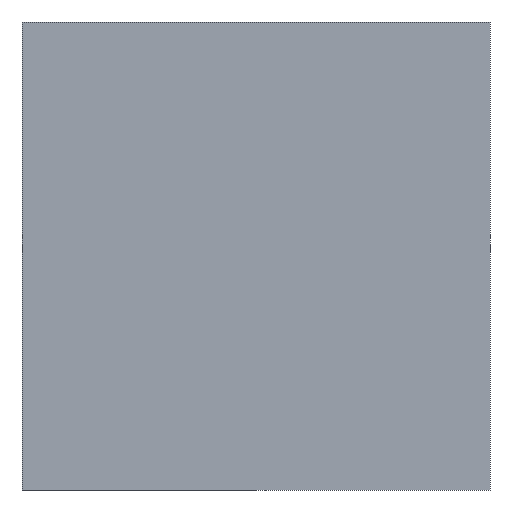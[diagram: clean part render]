
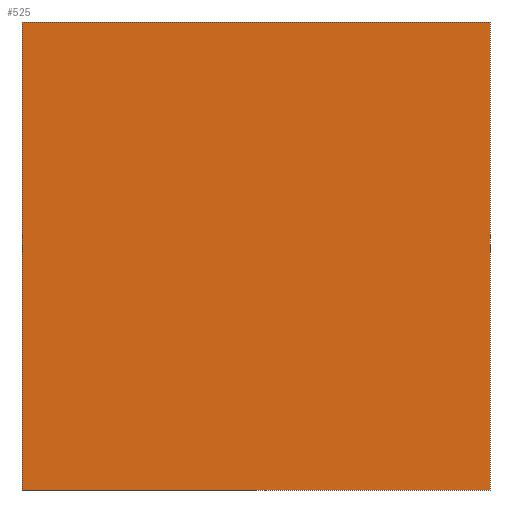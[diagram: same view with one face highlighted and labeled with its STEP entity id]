
A CAD part, left-side view. The second image highlights one B-rep face of the part: STEP entity #525.
In plain terms, the highlighted planar face has unit normal (-1, 0, 0).
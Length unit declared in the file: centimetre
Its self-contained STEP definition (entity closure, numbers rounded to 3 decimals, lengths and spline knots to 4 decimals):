
#1 = CARTESIAN_POINT ( 'NONE',  ( 0., 1000., 0. ) ) ;
#17 = LINE ( 'NONE', #343, #477 ) ;
#37 = CARTESIAN_POINT ( 'NONE',  ( 0., 1000., 1000. ) ) ;
#43 = DIRECTION ( 'NONE',  ( 0., -1., 0. ) ) ;
#67 = VECTOR ( 'NONE', #119, 100. ) ;
#84 = ORIENTED_EDGE ( 'NONE', *, *, #520, .T. ) ;
#89 = CARTESIAN_POINT ( 'NONE',  ( 0., 1000., 1000. ) ) ;
#93 = VECTOR ( 'NONE', #397, 100. ) ;
#103 = DIRECTION ( 'NONE',  ( 0., 0., -1. ) ) ;
#110 = CARTESIAN_POINT ( 'NONE',  ( 0., 1000., 1000. ) ) ;
#119 = DIRECTION ( 'NONE',  ( 0., -1., 0. ) ) ;
#141 = ORIENTED_EDGE ( 'NONE', *, *, #237, .T. ) ;
#143 = VERTEX_POINT ( 'NONE', #1 ) ;
#152 = AXIS2_PLACEMENT_3D ( 'NONE', #110, #189, #103 ) ;
#189 = DIRECTION ( 'NONE',  ( 1., 0., 0. ) ) ;
#201 = LINE ( 'NONE', #89, #67 ) ;
#222 = VECTOR ( 'NONE', #43, 100. ) ;
#223 = CARTESIAN_POINT ( 'NONE',  ( 0., 1000., 1000. ) ) ;
#233 = EDGE_CURVE ( 'NONE', #250, #412, #201, .T. ) ;
#237 = EDGE_CURVE ( 'NONE', #143, #280, #455, .T. ) ;
#250 = VERTEX_POINT ( 'NONE', #37 ) ;
#251 = CARTESIAN_POINT ( 'NONE',  ( 0., 0., 0. ) ) ;
#280 = VERTEX_POINT ( 'NONE', #251 ) ;
#305 = DIRECTION ( 'NONE',  ( 0., 0., -1. ) ) ;
#310 = LINE ( 'NONE', #223, #93 ) ;
#315 = FACE_OUTER_BOUND ( 'NONE', #335, .T. ) ;
#333 = CARTESIAN_POINT ( 'NONE',  ( 0., 0., 1000. ) ) ;
#335 = EDGE_LOOP ( 'NONE', ( #141, #529, #388, #84 ) ) ;
#343 = CARTESIAN_POINT ( 'NONE',  ( 0., 0., 1000. ) ) ;
#388 = ORIENTED_EDGE ( 'NONE', *, *, #233, .F. ) ;
#393 = EDGE_CURVE ( 'NONE', #412, #280, #17, .T. ) ;
#397 = DIRECTION ( 'NONE',  ( 0., 0., -1. ) ) ;
#401 = PLANE ( 'NONE',  #152 ) ;
#412 = VERTEX_POINT ( 'NONE', #333 ) ;
#448 = CARTESIAN_POINT ( 'NONE',  ( 0., 1000., 0. ) ) ;
#455 = LINE ( 'NONE', #448, #222 ) ;
#477 = VECTOR ( 'NONE', #305, 100. ) ;
#520 = EDGE_CURVE ( 'NONE', #250, #143, #310, .T. ) ;
#525 = ADVANCED_FACE ( 'NONE', ( #315 ), #401, .F. ) ;
#529 = ORIENTED_EDGE ( 'NONE', *, *, #393, .F. ) ;
